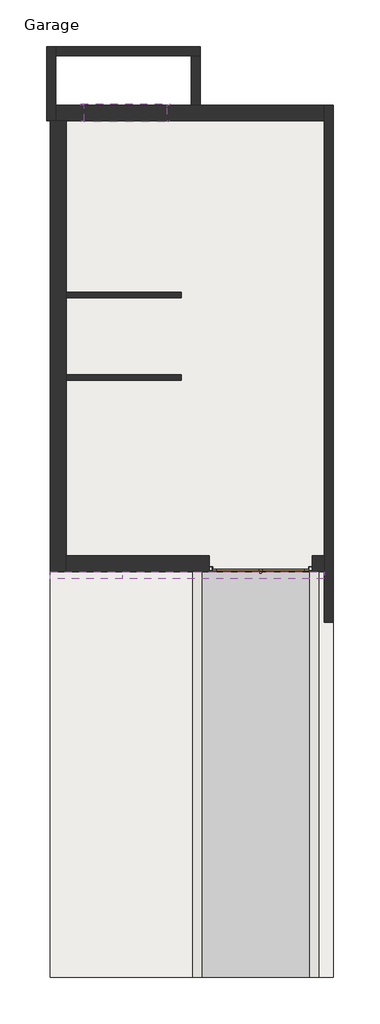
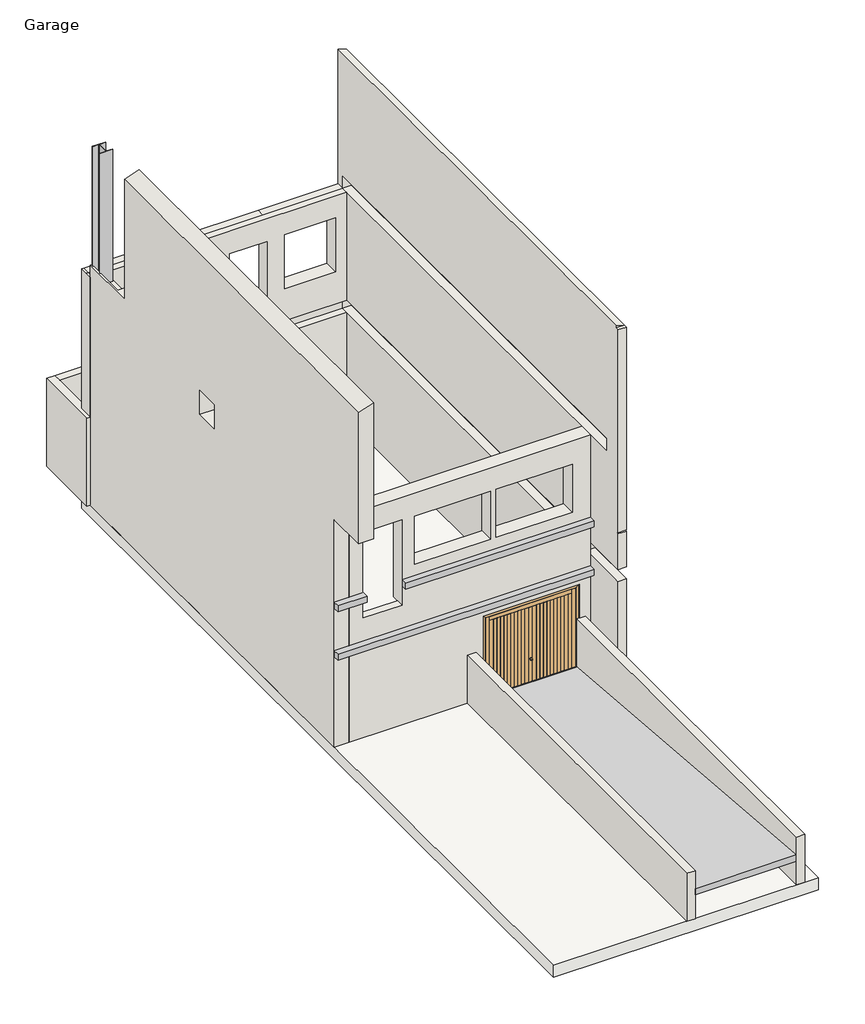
# One storey, incomplete: 11 walls, 2 proxies, 1 column, 1 door, 1 ramp, 1 slab, 1 window.
"""IFC4 building model written with IfcOpenShell, lengths in millimetres."""

from ifc_helpers import new_model, si_unit, frame, origin, place, context, project, spatial, polyline, outline, extrude, faceted_brep, transform, mapped, element, save
from components import uc_universal_column_column1_305x305x97uc_55296ce6, so_2285x2044_3bf3b656, ramp_1_c634dc8e, m_transom_1830_x_0457mm_4e4a5cc7

model = new_model("IFC4")

# Units and contexts
model_context = context("Model", 3, world=origin())
ifc_project = project(units=[si_unit("LENGTHUNIT", "METRE", prefix="MILLI")], contexts=[model_context])

# Site, building, storey
site = spatial("IfcSite", under=ifc_project)
building = spatial("IfcBuilding", under=site)
storey = spatial("IfcBuildingStorey", under=building, Name="Garage", Elevation=-3000.0)

# Proxies
placement = place(None, origin())
element("IfcBuildingElementProxy", 1, Name="Cornice", ObjectType="Cornice", at=placement, inside=storey, context=model_context, shape_type="SweptSolid", body=[
    extrude(outline(polyline([(-6529.8266822, -5929.1671527), (-6529.8266822, -5776.7671527), (-2061.8266822, -5776.7671527), (-2061.8266822, -5929.1671527), (-6529.8266822, -5929.1671527)])), frame((0.0, 0.0, 481.8451905), z_axis=(0.0, 0.0, 1.0), x_axis=(1.0, 0.0, 0.0)), (0.0, 0.0, 1.0), 152.4),
    extrude(outline(polyline([(-8133.3266822, -5929.1671527), (-8133.3266822, -5776.7671527), (-7443.8266822, -5776.7671527), (-7443.8266822, -5929.1671527), (-8133.3266822, -5929.1671527)])), frame((0.0, 0.0, 481.8451905), z_axis=(0.0, 0.0, 1.0), x_axis=(1.0, 0.0, 0.0)), (0.0, 0.0, 1.0), 152.4),
])
element("IfcBuildingElementProxy", 2, Name="Cornice", ObjectType="Cornice", at=placement, inside=storey, context=model_context, shape_type="SweptSolid", body=[
    extrude(outline(polyline([(-8133.3266822, -5929.1671527), (-8133.3266822, -5776.7671527), (-2061.8266822, -5776.7671527), (-2061.8266822, -5929.1671527), (-8133.3266822, -5929.1671527)])), frame((0.0, 0.0, -729.9229174), z_axis=(0.0, 0.0, 1.0), x_axis=(1.0, 0.0, 0.0)), (0.0, 0.0, 1.0), 152.4),
])

# Column
uc_universal_column_column1_305x305x97uc_shape = uc_universal_column_column1_305x305x97uc_55296ce6(model_context)
element("IfcColumn", 3, ObjectType="UC-Universal Column-Column1 : 305x305x97UC", at=placement, inside=storey, context=model_context, shape_type="MappedRepresentation", body=[
    mapped(uc_universal_column_column1_305x305x97uc_shape, transform((-7961.8266822, 4019.7328473, 0.0), x_axis=(1.0, 0.0, 0.0), y_axis=(0.0, 1.0, 0.0), z_axis=(0.0, 0.0, 1.0))),
])

# Door
so_2285x2044_shape = so_2285x2044_3bf3b656(model_context)
element("IfcDoor", 4, ObjectType="Garage-UpandOver-Type A : SO 2285x2044", at=placement, inside=storey, context=model_context, shape_type="MappedRepresentation", body=[
    mapped(so_2285x2044_shape, transform((-3468.5130621, -5601.7671527, -3000.0), x_axis=(1.0, 0.0, 0.0), y_axis=(0.0, 1.0, 0.0), z_axis=(0.0, 0.0, 1.0))),
])

# Ramp
ramp_1_shape = ramp_1_c634dc8e(model_context)
element("IfcRamp", 5, ObjectType="Ramp 1", at=placement, inside=storey, context=model_context, shape_type="MappedRepresentation", body=[
    mapped(ramp_1_shape, transform((0.0, 0.0, 0.0), x_axis=(1.0, 0.0, 0.0), y_axis=(0.0, 1.0, 0.0), z_axis=(0.0, 0.0, 1.0))),
])

# Slab
element("IfcSlab", 6, ObjectType="Domestic Slab", at=placement, inside=storey, context=model_context, shape_type="SweptSolid", body=[
    extrude(outline(polyline([(-8133.3266822, 4576.7328473), (-1861.8266822, 4576.7328473), (-1861.8266822, -14776.7671527), (-8133.3266822, -14776.7671527), (-8133.3266822, 4576.7328473)])), frame((0.0, 0.0, -3300.0), z_axis=(0.0, 0.0, 1.0), x_axis=(1.0, 0.0, 0.0)), (0.0, 0.0, 1.0), 300.0),
])

# Walls
element("IfcWall", 7, ObjectType="Exterior - Brick on Mtl. Stud", at=placement, inside=storey, context=model_context, shape_type="Brep", body=[
    faceted_brep([(-8133.3266822, 4223.2328473, -3000.0), (-8133.3266822, -5776.7671527, -3000.0), (-8133.3266822, -5776.7671527, -729.9229174), (-8133.3266822, -5776.7671527, -577.5229174), (-8133.3266822, -5776.7671527, 481.8451905), (-8133.3266822, -5776.7671527, 634.2451905), (-8133.3266822, -5776.7671527, 2700.0), (-8133.3266822, -6780.2671527, 2700.0), (-8133.3266822, -6780.2671527, 6000.0), (-8133.3266822, 2823.2328473, 6000.0), (-8133.3266822, 2823.2328473, 3000.0), (-8133.3266822, 4223.2328473, 3000.0), (-8133.3266822, -856.8406402, 2583.8025508), (-8133.3266822, -856.8406402, 1983.8025508), (-8133.3266822, -256.8406402, 1983.8025508), (-8133.3266822, -256.8406402, 2583.8025508), (-7783.3266822, -5776.7671527, -3000.0), (-7783.3266822, 4223.2328473, -3000.0), (-7783.3266822, 4223.2328473, -300.0), (-7783.3266822, 298.1593598, -300.0), (-7783.3266822, 298.1593598, 0.0), (-7783.3266822, 4223.2328473, 0.0), (-7783.3266822, 4223.2328473, 2700.0), (-7783.3266822, 298.1593598, 2700.0), (-7783.3266822, 298.1593598, 3000.0), (-7783.3266822, 2823.2328473, 3000.0), (-7783.3266822, 2823.2328473, 6112.3021997), (-7783.3266822, -6780.2671527, 6112.3021997), (-7783.3266822, -6780.2671527, 2700.0), (-7783.3266822, -6423.2671527, 2700.0), (-7783.3266822, -6423.2671527, 3000.0), (-7783.3266822, -1401.8406402, 3000.0), (-7783.3266822, -1401.8406402, 2700.0), (-7783.3266822, -5776.7671527, 2700.0), (-7783.3266822, -5776.7671527, 634.2451905), (-7783.3266822, -5776.7671527, 481.8451905), (-7783.3266822, -5776.7671527, -577.5229174), (-7783.3266822, -5776.7671527, -729.9229174), (-7783.3266822, -856.8406402, 1983.8025508), (-7783.3266822, -856.8406402, 2583.8025508), (-7783.3266822, -256.8406402, 2583.8025508), (-7783.3266822, -256.8406402, 1983.8025508), (-7783.3266822, -1401.8406402, -300.0), (-7783.3266822, -5595.2671527, -300.0), (-7783.3266822, -5595.2671527, 0.0), (-7783.3266822, -1401.8406402, 0.0), (-8088.3266822, 4223.2328473, 3000.0), (-8088.3266822, 4223.2328473, 2700.0), (-7948.3266822, 4223.2328473, 0.0), (-7948.3266822, 4223.2328473, -300.0), (-7948.3266822, 2823.2328473, 3000.0), (-7948.3266822, 3173.2328473, 3000.0), (-8088.3266822, 3173.2328473, 3000.0), (-7948.3266822, -5776.7671527, 2700.0), (-7948.3266822, -6423.2671527, 2700.0), (-7948.3266822, -1401.8406402, -300.0), (-7948.3266822, -5595.2671527, -300.0), (-7948.3266822, 298.1593598, -300.0), (-7948.3266822, -5595.2671527, 0.0), (-7948.3266822, -1401.8406402, 0.0), (-7948.3266822, 298.1593598, 0.0), (-7948.3266822, 3173.2328473, 2700.0), (-7948.3266822, 298.1593598, 2700.0), (-8088.3266822, 3173.2328473, 2700.0), (-7948.3266822, -1401.8406402, 2700.0), (-7948.3266822, -6423.2671527, 3000.0), (-7948.3266822, -1401.8406402, 3000.0), (-7948.3266822, 298.1593598, 3000.0)], [[[0, 1, 2, 3, 4, 5, 6, 7, 8, 9, 10, 11], [12, 13, 14, 15]], [[16, 17, 18, 19, 20, 21, 22, 23, 24, 25, 26, 27, 28, 29, 30, 31, 32, 33, 34, 35, 36, 37], [38, 39, 40, 41], [42, 43, 44, 45]], [[9, 8, 27, 26]], [[0, 11, 46, 47, 22, 21, 48, 49, 18, 17]], [[1, 0, 17, 16]], [[11, 10, 50, 51, 52, 46]], [[10, 9, 26, 25, 50]], [[7, 6, 53, 54, 29, 28]], [[8, 7, 28, 27]], [[1, 16, 37, 36, 35, 34, 33, 53, 6, 5, 4, 3, 2]], [[39, 38, 13, 12]], [[40, 39, 12, 15]], [[41, 40, 15, 14]], [[38, 41, 14, 13]], [[55, 56, 43, 42]], [[57, 19, 18, 49]], [[58, 59, 45, 44]], [[60, 48, 21, 20]], [[60, 57, 49, 48]], [[56, 58, 44, 43]], [[56, 55, 59, 58]], [[59, 55, 42, 45]], [[57, 60, 20, 19]], [[61, 62, 23, 22, 47, 63]], [[64, 53, 33, 32]], [[65, 66, 31, 30]], [[67, 50, 25, 24]], [[54, 65, 30, 29]], [[66, 65, 54, 53, 64]], [[66, 64, 32, 31]], [[62, 67, 24, 23]], [[62, 61, 51, 50, 67]], [[61, 63, 52, 51]], [[52, 63, 47, 46]]]),
])
element("IfcWall", 8, ObjectType="Exterior - Brick on Mtl. Stud", at=placement, inside=storey, context=model_context, shape_type="Brep", body=[
    faceted_brep([(-2061.8266822, -5426.7671527, -3000.0), (-2061.8266822, -5776.7671527, -3000.0), (-2179.3266822, -5776.7671527, -3000.0), (-2326.0130621, -5776.7671527, -3000.0), (-2326.0130621, -5426.7671527, -3000.0), (-7783.3266822, -5776.7671527, -3000.0), (-7783.3266822, -5426.7671527, -3000.0), (-4611.0130621, -5426.7671527, -3000.0), (-4611.0130621, -5776.7671527, -3000.0), (-4779.3266822, -5776.7671527, -3000.0), (-4979.3266822, -5776.7671527, -3000.0), (-2061.8266822, -5776.7671527, 2700.0), (-7783.3266822, -5776.7671527, 2700.0), (-7783.3266822, -5776.7671527, -1500.0), (-7783.3266822, -5776.7671527, -1800.0), (-4611.0130621, -5776.7671527, -956.0), (-2326.0130621, -5776.7671527, -956.0), (-4295.8266822, -5776.7671527, 915.0), (-4295.8266822, -5776.7671527, 2115.0), (-2495.8266822, -5776.7671527, 2115.0), (-2495.8266822, -5776.7671527, 915.0), (-4429.8266822, -5776.7671527, 2115.0), (-4429.8266822, -5776.7671527, 915.0), (-6229.8266822, -5776.7671527, 915.0), (-6229.8266822, -5776.7671527, 2115.0), (-7443.8266822, -5776.7671527, 0.0), (-7443.8266822, -5776.7671527, 2134.0), (-6529.8266822, -5776.7671527, 2134.0), (-6529.8266822, -5776.7671527, 0.0), (-7783.3266822, -5426.7671527, 2700.0), (-2061.8266822, -5426.7671527, 2700.0), (-2061.8266822, -5426.7671527, 0.0), (-6529.8266822, -5426.7671527, 0.0), (-6529.8266822, -5426.7671527, 2134.0), (-7443.8266822, -5426.7671527, 2134.0), (-7443.8266822, -5426.7671527, 0.0), (-7783.3266822, -5426.7671527, 0.0), (-4295.8266822, -5426.7671527, 2115.0), (-4295.8266822, -5426.7671527, 915.0), (-2495.8266822, -5426.7671527, 915.0), (-2495.8266822, -5426.7671527, 2115.0), (-4429.8266822, -5426.7671527, 915.0), (-4429.8266822, -5426.7671527, 2115.0), (-6229.8266822, -5426.7671527, 2115.0), (-6229.8266822, -5426.7671527, 915.0), (-2326.0130621, -5426.7671527, -956.0), (-4611.0130621, -5426.7671527, -956.0), (-7783.3266822, -5426.7671527, -300.0), (-2061.8266822, -5426.7671527, -300.0), (-2061.8266822, -5595.2671527, -300.0), (-2061.8266822, -5595.2671527, 0.0), (-7783.3266822, -5595.2671527, 0.0), (-7783.3266822, -5595.2671527, -300.0), (-7443.8266822, -5595.2671527, 0.0), (-6529.8266822, -5595.2671527, 0.0)], [[[0, 1, 2, 3, 4]], [[5, 6, 7, 8, 9, 10]], [[1, 11, 12, 13, 14, 5, 10, 9, 8, 15, 16, 3, 2], [17, 18, 19, 20], [21, 22, 23, 24], [25, 26, 27, 28]], [[29, 30, 31, 32, 33, 34, 35, 36], [37, 38, 39, 40], [41, 42, 43, 44]], [[4, 45, 46, 7, 6, 47, 48, 0]], [[11, 1, 0, 48, 49, 50, 31, 30]], [[12, 11, 30, 29]], [[5, 14, 13, 12, 29, 36, 51, 52, 47, 6]], [[45, 4, 3, 16]], [[46, 45, 16, 15]], [[7, 46, 15, 8]], [[38, 37, 18, 17]], [[39, 38, 17, 20]], [[40, 39, 20, 19]], [[37, 40, 19, 18]], [[22, 21, 42, 41]], [[23, 22, 41, 44]], [[24, 23, 44, 43]], [[21, 24, 43, 42]], [[34, 26, 25, 53, 35]], [[26, 34, 33, 27]], [[27, 33, 32, 54, 28]], [[25, 28, 54, 53]], [[52, 49, 48, 47]], [[50, 54, 32, 31]], [[53, 51, 36, 35]], [[49, 52, 51, 53, 54, 50]]]),
])
element("IfcWall", 9, ObjectType="Exterior - Brick on Mtl. Stud", at=placement, inside=storey, context=model_context, shape_type="Brep", body=[
    faceted_brep([(-8018.3266822, 4573.2328473, -3000.0), (-5011.8266822, 4573.2328473, -3000.0), (-4811.8266822, 4573.2328473, -3000.0), (-2061.8266822, 4573.2328473, -3000.0), (-2061.8266822, 4223.2328473, -3000.0), (-8018.3266822, 4223.2328473, -3000.0), (-8018.3266822, 4573.2328473, -800.0), (-8133.3266822, 4573.2328473, -800.0), (-8133.3266822, 4573.2328473, 2700.0), (-8088.3266822, 4573.2328473, 2700.0), (-7948.3266822, 4573.2328473, 2700.0), (-3951.8266822, 4573.2328473, 2700.0), (-3841.8266822, 4573.2328473, 2700.0), (-2061.8266822, 4573.2328473, 2700.0), (-5556.8266822, 4573.2328473, -1700.0), (-5556.8266822, 4573.2328473, -1243.0), (-7386.8266822, 4573.2328473, -1243.0), (-7386.8266822, 4573.2328473, -1700.0), (-5886.8266822, 4573.2328473, 800.0), (-5886.8266822, 4573.2328473, 2150.0), (-7086.8266822, 4573.2328473, 2150.0), (-7086.8266822, 4573.2328473, 800.0), (-2329.3266822, 4573.2328473, 800.0), (-2329.3266822, 4573.2328473, 2150.0), (-3529.3266822, 4573.2328473, 2150.0), (-3529.3266822, 4573.2328473, 800.0), (-3929.8266822, 4573.2328473, 0.0), (-3929.8266822, 4573.2328473, 2134.0), (-4843.8266822, 4573.2328473, 2134.0), (-4843.8266822, 4573.2328473, 0.0), (-2061.8266822, 4223.2328473, -300.0), (-7948.3266822, 4223.2328473, -300.0), (-7948.3266822, 4223.2328473, 0.0), (-4843.8266822, 4223.2328473, 0.0), (-4843.8266822, 4223.2328473, 2134.0), (-3929.8266822, 4223.2328473, 2134.0), (-3929.8266822, 4223.2328473, 0.0), (-2061.8266822, 4223.2328473, 0.0), (-2061.8266822, 4223.2328473, 2700.0), (-8088.3266822, 4223.2328473, 2700.0), (-8133.3266822, 4223.2328473, 2700.0), (-8133.3266822, 4223.2328473, -800.0), (-8018.3266822, 4223.2328473, -800.0), (-5556.8266822, 4223.2328473, -1243.0), (-5556.8266822, 4223.2328473, -1700.0), (-7386.8266822, 4223.2328473, -1700.0), (-7386.8266822, 4223.2328473, -1243.0), (-5886.8266822, 4223.2328473, 2150.0), (-5886.8266822, 4223.2328473, 800.0), (-7086.8266822, 4223.2328473, 800.0), (-7086.8266822, 4223.2328473, 2150.0), (-2329.3266822, 4223.2328473, 2150.0), (-2329.3266822, 4223.2328473, 800.0), (-3529.3266822, 4223.2328473, 800.0), (-3529.3266822, 4223.2328473, 2150.0), (-8133.3266822, 4384.7328473, 2700.0), (-2061.8266822, 4391.7328473, 2700.0), (-2061.8266822, 4384.7328473, 2700.0), (-2061.8266822, 4391.7328473, 0.0), (-2061.8266822, 4391.7328473, -300.0), (-8088.3266822, 4384.7328473, 2700.0), (-7948.3266822, 4384.7328473, 2700.0), (-3951.8266822, 4391.7328473, 2700.0), (-3951.8266822, 4384.7328473, 2700.0), (-3929.8266822, 4391.7328473, 0.0), (-4843.8266822, 4391.7328473, 0.0), (-7948.3266822, 4391.7328473, -300.0), (-7948.3266822, 4391.7328473, 0.0)], [[[0, 1, 2, 3, 4, 5]], [[3, 2, 1, 0, 6, 7, 8, 9, 10, 11, 12, 13], [14, 15, 16, 17], [18, 19, 20, 21], [22, 23, 24, 25], [26, 27, 28, 29]], [[5, 4, 30, 31, 32, 33, 34, 35, 36, 37, 38, 39, 40, 41, 42], [43, 44, 45, 46], [47, 48, 49, 50], [51, 52, 53, 54]], [[43, 15, 14, 44]], [[44, 14, 17, 45]], [[15, 43, 46, 16]], [[16, 46, 45, 17]], [[7, 6, 42, 41]], [[6, 0, 5, 42]], [[8, 7, 41, 40, 55]], [[4, 3, 13, 56, 57, 38, 37, 58, 59, 30]], [[40, 39, 60, 55]], [[9, 8, 55, 60]], [[10, 9, 60, 61]], [[57, 56, 13, 12, 11, 62, 63]], [[11, 10, 61, 63, 62]], [[39, 38, 57, 63, 61, 60]], [[48, 47, 19, 18]], [[49, 48, 18, 21]], [[50, 49, 21, 20]], [[47, 50, 20, 19]], [[51, 23, 22, 52]], [[52, 22, 25, 53]], [[53, 25, 24, 54]], [[23, 51, 54, 24]], [[35, 27, 26, 64, 36]], [[27, 35, 34, 28]], [[28, 34, 33, 65, 29]], [[26, 29, 65, 64]], [[59, 66, 31, 30]], [[67, 65, 33, 32]], [[64, 58, 37, 36]], [[66, 67, 32, 31]], [[67, 66, 59, 58, 64, 65]]]),
])
element("IfcWall", 10, ObjectType="Generic - 200mm", at=placement, inside=storey, context=model_context, shape_type="Brep", body=[
    faceted_brep([(-1861.8266822, -6901.7671527, 6000.0), (-2061.8266822, -6901.7671527, 6000.0), (-2061.8266822, -6901.7671527, 930.0), (-1861.8266822, -6901.7671527, 930.0), (-2061.8266822, -6901.7671527, -3000.0), (-1861.8266822, -6901.7671527, -3000.0), (-1861.8266822, -6901.7671527, -300.0), (-2061.8266822, -6901.7671527, -300.0), (-2061.8266822, -6901.7671527, 0.0), (-1861.8266822, -6901.7671527, 0.0), (-1861.8266822, -6901.7671527, 900.0), (-2061.8266822, -6901.7671527, 900.0), (-1861.8266822, 4573.2328473, -3000.0), (-2061.8266822, 4573.2328473, -3000.0), (-1861.8266822, 4573.2328473, 6000.0), (-1861.8266822, -6811.7671527, 6000.0), (-1861.8266822, -6851.7671527, 930.0), (-1861.8266822, -6851.7671527, 900.0), (-1861.8266822, -5610.7671527, 0.0), (-1861.8266822, -5610.7671527, -300.0), (-1861.8266822, 4391.7328473, -300.0), (-1861.8266822, -5595.2671527, -300.0), (-1861.8266822, -5595.2671527, 0.0), (-1861.8266822, 4391.7328473, 0.0), (-1861.8266822, 4391.7328473, 2700.0), (-1861.8266822, -6423.2671527, 2700.0), (-1861.8266822, -6423.2671527, 3000.0), (-1861.8266822, 4391.7328473, 3000.0), (-2061.8266822, -5610.7671527, -300.0), (-2061.8266822, -5610.7671527, 0.0), (-2061.8266822, -6851.7671527, 900.0), (-2061.8266822, -6851.7671527, 930.0), (-2061.8266822, -6811.7671527, 6000.0), (-2061.8266822, -6811.7671527, 6064.1726855), (-2061.8266822, 4573.2328473, 6064.1726855), (-2061.8266822, -5595.2671527, -300.0), (-2061.8266822, 4391.7328473, -300.0), (-2061.8266822, 4391.7328473, 0.0), (-2061.8266822, -5595.2671527, 0.0), (-2061.8266822, -6423.2671527, 2700.0), (-2061.8266822, 4391.7328473, 2700.0), (-2061.8266822, 4391.7328473, 3000.0), (-2061.8266822, -6423.2671527, 3000.0)], [[[0, 1, 2, 3]], [[4, 5, 6, 7]], [[8, 9, 10, 11]], [[12, 5, 4, 13]], [[5, 12, 14, 15, 0, 3, 16, 17, 10, 9, 18, 19, 6], [20, 21, 22, 23], [24, 25, 26, 27]], [[13, 4, 7, 28, 29, 8, 11, 30, 31, 2, 1, 32, 33, 34], [35, 36, 37, 38], [39, 40, 41, 42]], [[12, 13, 34, 14]], [[1, 0, 15, 32]], [[14, 34, 33, 15]], [[32, 15, 33]], [[35, 21, 20, 36]], [[37, 23, 22, 38]], [[36, 20, 23, 37]], [[21, 35, 38, 22]], [[39, 25, 24, 40]], [[41, 27, 26, 42]], [[40, 24, 27, 41]], [[25, 39, 42, 26]], [[19, 28, 7, 6]], [[29, 18, 9, 8]], [[28, 19, 18, 29]], [[31, 16, 3, 2]], [[16, 31, 30, 17]], [[17, 30, 11, 10]]]),
])
element("IfcWall", 11, ObjectType="Generic - 200mm", at=placement, inside=storey, context=model_context, shape_type="Brep", body=[
    faceted_brep([(-8018.3266822, 5873.2328473, -3000.0), (-8018.3266822, 4573.2328473, -3000.0), (-8018.3266822, 4223.2328473, -3000.0), (-8218.3266822, 4223.2328473, -3000.0), (-8218.3266822, 5873.2328473, -3000.0), (-8018.3266822, 5873.2328473, -2100.0), (-8018.3266822, 5873.2328473, -800.0), (-8018.3266822, 5673.2328473, -800.0), (-8018.3266822, 4573.2328473, -800.0), (-8018.3266822, 4223.2328473, -800.0), (-8218.3266822, 4223.2328473, -800.0), (-8218.3266822, 5873.2328473, -800.0), (-8133.3266822, 4223.2328473, -800.0)], [[[0, 1, 2, 3, 4]], [[2, 1, 0, 5, 6, 7, 8, 9]], [[3, 10, 11, 4]], [[9, 8, 7, 6, 11, 10, 12]], [[2, 9, 12, 10, 3]], [[6, 5, 0, 4, 11]]]),
])
element("IfcWall", 12, ObjectType="Generic - 200mm", at=placement, inside=storey, context=model_context, shape_type="Brep", body=[
    faceted_brep([(-8018.3266822, 5673.2328473, -2100.0), (-4811.8266822, 5673.2328473, -2100.0), (-4811.8266822, 5673.2328473, -1100.0), (-4811.8266822, 5673.2328473, -800.0), (-8018.3266822, 5673.2328473, -800.0), (-8018.3266822, 5873.2328473, -2100.0), (-8018.3266822, 5873.2328473, -800.0), (-4811.8266822, 5873.2328473, -800.0), (-4811.8266822, 5873.2328473, -2100.0)], [[[0, 1, 2, 3, 4]], [[5, 6, 7, 8]], [[1, 0, 5, 8]], [[4, 3, 7, 6]], [[3, 2, 1, 8, 7]], [[0, 4, 6, 5]]]),
])
element("IfcWall", 13, ObjectType="Generic - 200mm", at=placement, inside=storey, context=model_context, shape_type="Brep", body=[
    faceted_brep([(-5011.8266822, 5673.2328473, -3000.0), (-5011.8266822, 4573.2328473, -3000.0), (-5011.8266822, 4573.2328473, -1100.0), (-5011.8266822, 5673.2328473, -1100.0), (-4811.8266822, 5673.2328473, -3000.0), (-4811.8266822, 5673.2328473, -2100.0), (-4811.8266822, 5673.2328473, -1100.0), (-4811.8266822, 4573.2328473, -1100.0), (-4811.8266822, 4573.2328473, -3000.0)], [[[0, 1, 2, 3]], [[4, 5, 6, 7, 8]], [[1, 0, 4, 8]], [[0, 3, 6, 5, 4]], [[2, 1, 8, 7]], [[3, 2, 7, 6]]]),
])
element("IfcWall", 14, ObjectType="Generic - 200mm - Filled", at=placement, inside=storey, context=model_context, shape_type="SweptSolid", body=[
    extrude(outline(polyline([(-4979.3266822, -14776.7671527), (-4979.3266822, -5776.7671527), (-4779.3266822, -5776.7671527), (-4779.3266822, -14776.7671527), (-4979.3266822, -14776.7671527)])), frame((0.0, 0.0, -3000.0), z_axis=(0.0, 0.0, 1.0), x_axis=(1.0, 0.0, 0.0)), (0.0, 0.0, 1.0), 1200.0),
])
element("IfcWall", 15, ObjectType="Generic - 200mm - Filled", at=placement, inside=storey, context=model_context, shape_type="Brep", body=[
    faceted_brep([(-2379.3266822, -14776.7671527, -1800.0), (-2379.3266822, -14776.7671527, -3000.0), (-2179.3266822, -14776.7671527, -3000.0), (-2179.3266822, -14776.7671527, -1800.0), (-2379.3266822, -5776.7671527, -3000.0), (-2326.0130621, -5776.7671527, -3000.0), (-2179.3266822, -5776.7671527, -3000.0), (-2379.3266822, -5776.7671527, -1800.0), (-2179.3266822, -5776.7671527, -1800.0)], [[[0, 1, 2, 3]], [[1, 4, 5, 6, 2]], [[4, 1, 0, 7]], [[6, 8, 3, 2]], [[4, 7, 8, 6, 5]], [[7, 0, 3, 8]]]),
])
element("IfcWall", 16, ObjectType="Interior wall", at=placement, inside=storey, context=model_context, shape_type="SweptSolid", body=[
    extrude(outline(polyline([(-5226.8266822, -1526.8406402), (-7783.3266822, -1526.8406402), (-7783.3266822, -1401.8406402), (-5226.8266822, -1401.8406402), (-5226.8266822, -1526.8406402)])), frame((0.0, 0.0, -3000.0), z_axis=(0.0, 0.0, 1.0), x_axis=(1.0, 0.0, 0.0)), (0.0, 0.0, 1.0), 2700.0),
])
element("IfcWall", 17, ObjectType="Interior wall", at=placement, inside=storey, context=model_context, shape_type="SweptSolid", body=[
    extrude(outline(polyline([(-7783.3266822, 423.1593598), (-5226.8266822, 423.1593598), (-5226.8266822, 298.1593598), (-7783.3266822, 298.1593598), (-7783.3266822, 423.1593598)])), frame((0.0, 0.0, -3000.0), z_axis=(0.0, 0.0, 1.0), x_axis=(1.0, 0.0, 0.0)), (0.0, 0.0, 1.0), 2700.0),
])

# Window
m_transom_1830_x_0457mm_shape = m_transom_1830_x_0457mm_4e4a5cc7(model_context)
element("IfcWindow", 18, ObjectType="M_Transom : 1830 x 0457mm", at=placement, inside=storey, context=model_context, shape_type="MappedRepresentation", body=[
    mapped(m_transom_1830_x_0457mm_shape, transform((-6433.7266822, 4398.2328473, -3859.0), x_axis=(1.0, 0.0, 0.0), y_axis=(0.0, 1.0, 0.0), z_axis=(0.0, 0.0, 1.0))),
])

save(model, "model.ifc")
